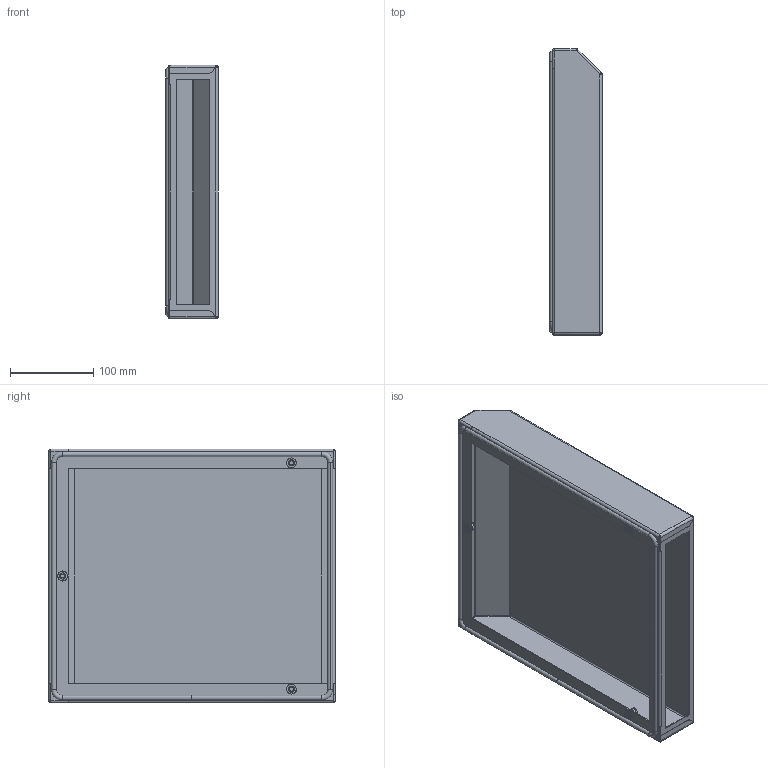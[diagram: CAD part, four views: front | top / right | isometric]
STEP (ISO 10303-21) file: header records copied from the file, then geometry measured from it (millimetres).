
FILE_DESCRIPTION (( 'STEP AP203' ), '1' );
FILE_NAME ('R 15 FA 01.000 ﾑﾁ ﾊ鮻 鈞隆 蓁 粢炅齏.STEP', '2022-04-12T13:13:08', ( '' ), ( '' ), 'SwSTEP 2.0', 'SolidWorks 2018', '' );
FILE_SCHEMA (( 'CONFIG_CONTROL_DESIGN' ));
Length unit declared in the file: millimetre
Products named in the file (4): R 12 FA 00.001 ﾊ鮻 鈞隆 蓁 粢炅齏_R 15 FA 00.001 EPLAN; 逄鋋襡樇鳺 鼨錒膰膼碭嬅R 15 FA S; R 15 FA 01.000 ﾑﾁ ﾊ鮻 鈞隆 蓁 粢炅齏; Çàêëåïêà îö. âûòÿæíàÿ ðåçüáîâàÿ ðèôëåíàÿ Ì6_ƒ ©ª  Œ6 ¢ëâï¦­ ï - S2.0
Assembly tree (5 placements, depth 2):
  R 15 FA 01.000 ﾑﾁ ﾊ鮻 鈞隆 蓁 粢炅齏
    R 12 FA 00.001 ﾊ鮻 鈞隆 蓁 粢炅齏_R 15 FA 00.001 EPLAN
    逄鋋襡樇鳺 鼨錒膰膼碭嬅R 15 FA S
    Çàêëåïêà îö. âûòÿæíàÿ ðåçüáîâàÿ ðèôëåíàÿ Ì6_ƒ ©ª  Œ6 ¢ëâï¦­ ï - S2.0  x3
Bounding box: 62.98 x 344.08 x 305 mm (x, y, z)
Volume: 280560.9 mm3; surface area: 396505.9 mm2
Topology: 5 solids, 5 shells, 201 faces, 451 edges, 266 vertices
Faces by surface type: plane 97, cylinder 66, torus 18, bspline 12, cone 6, sphere 2
Entity records: 5534 total; most frequent: CARTESIAN_POINT 1484, DIRECTION 756, ORIENTED_EDGE 734, EDGE_CURVE 367, AXIS2_PLACEMENT_3D 266, VECTOR 224, LINE 224, VERTEX_POINT 214
